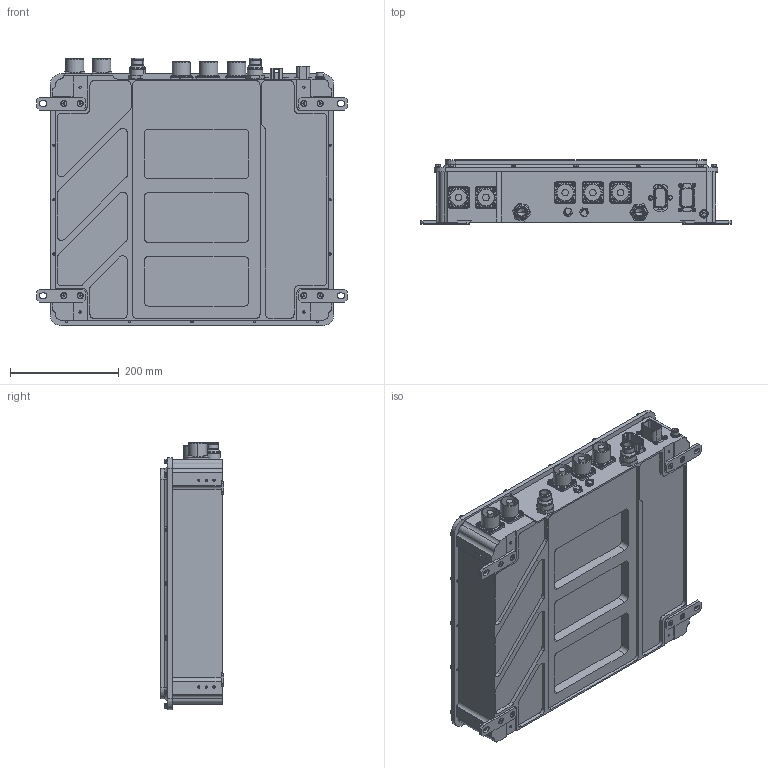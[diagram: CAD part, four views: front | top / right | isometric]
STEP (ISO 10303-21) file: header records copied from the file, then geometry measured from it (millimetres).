
FILE_DESCRIPTION (( 'STEP AP214' ), '1' );
FILE_NAME ('ﾐﾃﾋﾑ.435432.004 ﾑﾀﾝ-ﾒﾈ240-08-A3.STEP', '2026-08-24T13:13:50', ( '' ), ( '' ), 'SwSTEP 2.0', 'SolidWorks 2022', '' );
FILE_SCHEMA (( 'AUTOMOTIVE_DESIGN' ));
Length unit declared in the file: millimetre
Products named in the file (1): РГЛС.435432.004 САЭ-ТИ240-08-A3
Bounding box: 571 x 117 x 491 mm (x, y, z)
Volume: 23312734.2 mm3; surface area: 896914 mm2
Topology: 78 solids, 89 shells, 3220 faces, 7663 edges, 4710 vertices
Faces by surface type: plane 1545, cylinder 833, cone 399, torus 250, bspline 181, sphere 12
Entity records: 139341 total; most frequent: CARTESIAN_POINT 29260, DIRECTION 15517, ORIENTED_EDGE 14982, EDGE_CURVE 7491, AXIS2_PLACEMENT_3D 5529, VERTEX_POINT 4708, VECTOR 4459, LINE 4459
